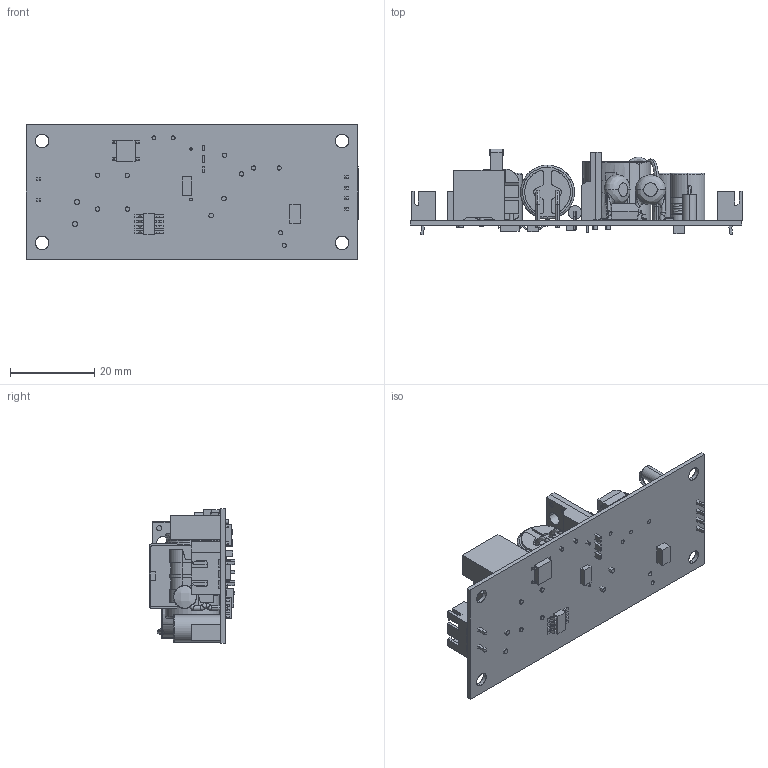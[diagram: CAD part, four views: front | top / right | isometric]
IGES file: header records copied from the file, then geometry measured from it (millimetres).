
Start section: SolidWorks IGES file using analytic representation for surfaces
Global section: file name: C:\Users\ksmith.XPNA\Desktop\EML15\EML15-T\EML15-T.IGS; native system: SolidWorks 2013; preprocessor: SolidWorks 2013; author: ksmith; date: 130904.141825; units: inch
Bounding box: 78.7 x 20.3 x 31.8 mm (x, y, z)
Surface area: 14938.1 mm2 (no closed solid volume)
Topology: 0 solids, 0 shells, 1039 faces, 10603 edges, 10603 vertices
Faces by surface type: bspline 841, revolution 198
